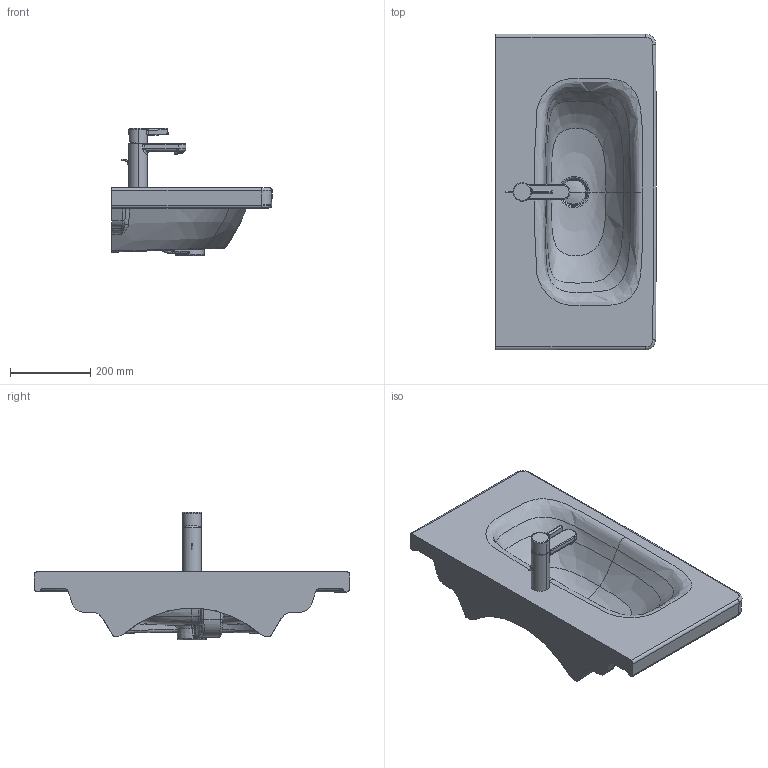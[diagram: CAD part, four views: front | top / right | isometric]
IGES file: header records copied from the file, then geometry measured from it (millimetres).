
Global section: file name: No Iges File Name specified; native system: Autodesk Inventor 2011; preprocessor: AutoDesk Inventor Iges Exporter R2011; author: Administrator; date: 20150526.220236; units: millimetre
Bounding box: 399.89 x 785.15 x 317.6 mm (x, y, z)
Volume: 12950779.8 mm3; surface area: 1139230 mm2
Topology: 7 solids, 7 shells, 424 faces, 1061 edges, 652 vertices
Faces by surface type: bspline 159, plane 86, revolution 72, cylinder 69, torus 28, cone 8, sphere 2
